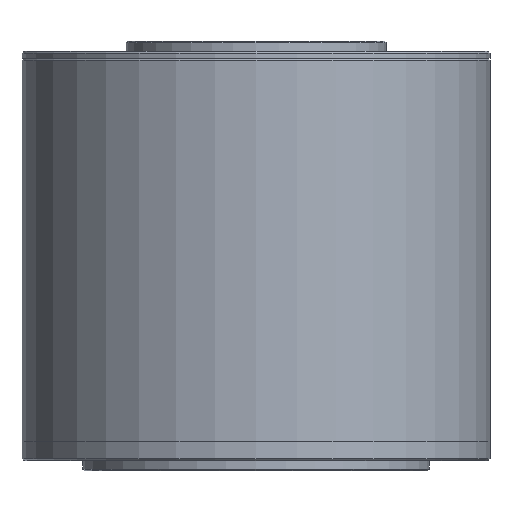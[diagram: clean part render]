
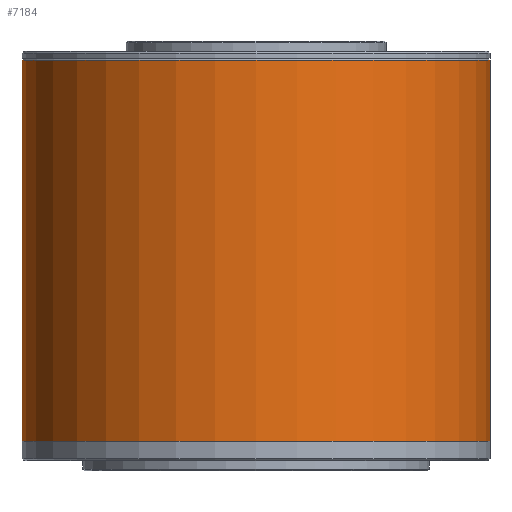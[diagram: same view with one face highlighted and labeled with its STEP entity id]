
A CAD part, front view. The second image highlights one B-rep face of the part: STEP entity #7184.
In plain terms, the highlighted cylindrical face has radius 67.5 mm (diameter 135 mm), a partial arc.
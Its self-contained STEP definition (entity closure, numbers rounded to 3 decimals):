
#5097=CARTESIAN_POINT('',(0.,0.,46.));
#5098=DIRECTION('',(0.,0.,1.));
#5099=DIRECTION('',(-1.,0.,0.));
#5100=AXIS2_PLACEMENT_3D('',#5097,#5098,#5099);
#5132=DIRECTION('',(0.,0.,-1.));
#5133=VECTOR('',#5132,110.);
#5134=CARTESIAN_POINT('',(67.5,0.,46.));
#5135=LINE('',#5134,#5133);
#5141=CARTESIAN_POINT('',(0.,0.,-64.));
#5142=DIRECTION('',(0.,0.,-1.));
#5143=DIRECTION('',(1.,0.,0.));
#5144=AXIS2_PLACEMENT_3D('',#5141,#5142,#5143);
#5249=DIRECTION('',(0.,0.,-1.));
#5250=VECTOR('',#5249,110.);
#5251=CARTESIAN_POINT('',(-67.5,0.,46.));
#5252=LINE('',#5251,#5250);
#6749=CARTESIAN_POINT('',(-67.5,0.,46.));
#6750=CARTESIAN_POINT('',(67.5,0.,46.));
#6751=VERTEX_POINT('',#6749);
#6752=VERTEX_POINT('',#6750);
#6753=CARTESIAN_POINT('',(67.5,0.,-64.));
#6754=CARTESIAN_POINT('',(-67.5,0.,-64.));
#6755=VERTEX_POINT('',#6753);
#6756=VERTEX_POINT('',#6754);
#7173=CARTESIAN_POINT('',(0.,0.,71.691));
#7174=DIRECTION('',(0.,0.,1.));
#7175=DIRECTION('',(1.,0.,0.));
#7176=AXIS2_PLACEMENT_3D('',#7173,#7174,#7175);
#7177=CYLINDRICAL_SURFACE('',#7176,67.5);
#7178=ORIENTED_EDGE('',*,*,#7097,.F.);
#7179=ORIENTED_EDGE('',*,*,#7050,.T.);
#7180=ORIENTED_EDGE('',*,*,#7094,.T.);
#7181=ORIENTED_EDGE('',*,*,#7108,.T.);
#7182=EDGE_LOOP('',(#7178,#7179,#7180,#7181));
#7183=FACE_OUTER_BOUND('',#7182,.F.);
#7184=ADVANCED_FACE('',(#7183),#7177,.T.);
#5101=CIRCLE('',#5100,67.5);
#5145=CIRCLE('',#5144,67.5);
#7050=EDGE_CURVE('',#6751,#6752,#5101,.T.);
#7094=EDGE_CURVE('',#6752,#6755,#5135,.T.);
#7097=EDGE_CURVE('',#6751,#6756,#5252,.T.);
#7108=EDGE_CURVE('',#6755,#6756,#5145,.T.);
